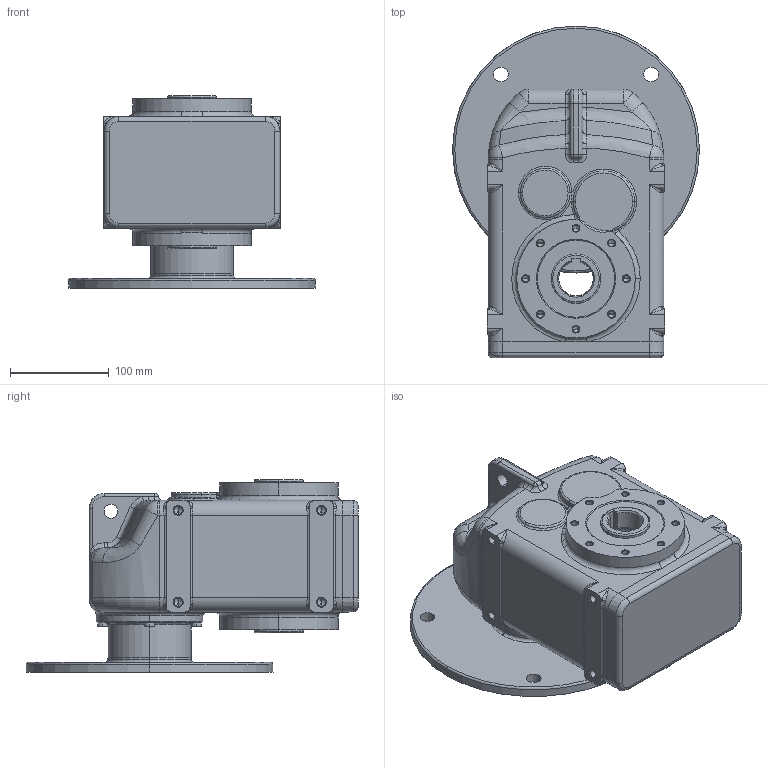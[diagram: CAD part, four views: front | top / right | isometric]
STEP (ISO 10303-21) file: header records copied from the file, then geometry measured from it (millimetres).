
FILE_DESCRIPTION (( 'STEP AP214' ), '1' );
FILE_NAME ('tnc22-f215-ap100.STEP', '2009-09-24T06:58:00', ( '' ), ( '' ), 'SwSTEP 2.0', 'SolidWorks 2003240', '' );
FILE_SCHEMA (( 'AUTOMOTIVE_DESIGN' ));
Length unit declared in the file: millimetre
Products named in the file (4): tnc22-f215-ap100; D6912_Šroub DIN 6912 - M6x20; Skøíò TNC2_Skøíò TNC22 AP100; Pøíruba MRT80 kulatá _180-215-250
Assembly tree (8 placements, depth 2):
  tnc22-f215-ap100
    D6912_Šroub DIN 6912 - M6x20  x6
    Skøíò TNC2_Skøíò TNC22 AP100
    Pøíruba MRT80 kulatá _180-215-250
Bounding box: 250 x 336 x 195 mm (x, y, z)
Volume: 5839389.8 mm3; surface area: 365749.2 mm2
Topology: 8 solids, 8 shells, 858 faces, 1910 edges, 1039 vertices
Faces by surface type: cylinder 246, cone 241, plane 175, torus 128, bspline 62, sphere 6
Entity records: 82583 total; most frequent: CARTESIAN_POINT 66645, DIRECTION 3449, ORIENTED_EDGE 2992, EDGE_CURVE 1496, AXIS2_PLACEMENT_3D 1451, VERTEX_POINT 884, CIRCLE 829, EDGE_LOOP 754
